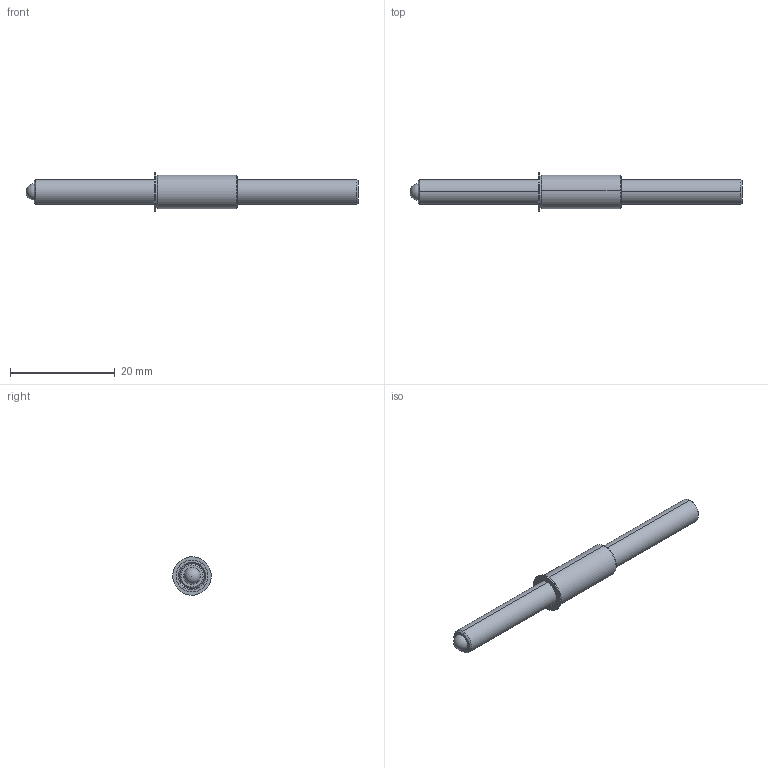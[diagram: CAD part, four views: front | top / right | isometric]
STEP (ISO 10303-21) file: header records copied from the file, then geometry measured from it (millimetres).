
FILE_DESCRIPTION (( 'STEP AP214' ), '1' );
FILE_NAME ('TSB187-100-2500_625.STEP', '2013-03-13T13:45:10', ( 'workpc' ), ( 'Microsoft' ), 'SwSTEP 2.0', 'SolidWorks 2013', '' );
FILE_SCHEMA (( 'AUTOMOTIVE_DESIGN' ));
Length unit declared in the file: inch
Products named in the file (1): TSB187-100-2500_625
Bounding box: 63.5 x 7.35 x 7.35 mm (x, y, z)
Surface area: 1362.2 mm2 (no closed solid volume)
Topology: 0 solids, 3 shells, 33 faces, 77 edges, 49 vertices
Faces by surface type: cone 12, plane 11, cylinder 8, sphere 2
Entity records: 1358 total; most frequent: DIRECTION 174, CARTESIAN_POINT 152, ORIENTED_EDGE 132, EDGE_CURVE 72, AXIS2_PLACEMENT_3D 68, VERTEX_POINT 46, EDGE_LOOP 38, LINE 38
